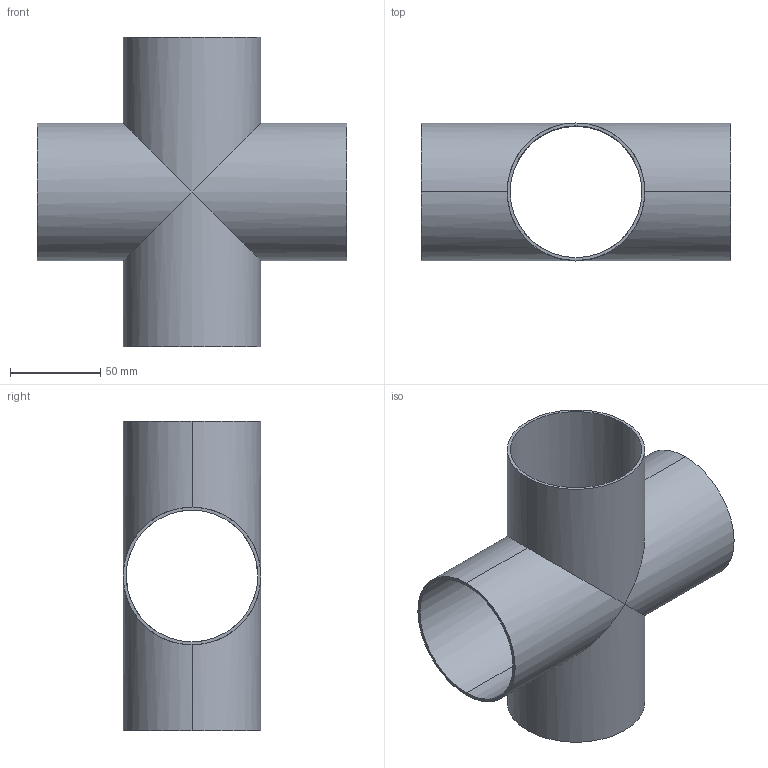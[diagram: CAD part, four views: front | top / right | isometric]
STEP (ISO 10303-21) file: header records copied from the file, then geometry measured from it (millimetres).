
FILE_DESCRIPTION (( 'STEP AP214' ), '1' );
FILE_NAME ('TE9WWWW6L3.0-...STEP', '2016-05-22T04:57:22', ( 'eran' ), ( '' ), 'SwSTEP 2.0', 'SolidWorks 2016', '' );
FILE_SCHEMA (( 'AUTOMOTIVE_DESIGN' ));
Length unit declared in the file: millimetre
Products named in the file (1): TE9WWWW6L3.0-..
Bounding box: 171.45 x 76.2 x 171.45 mm (x, y, z)
Volume: 95880.5 mm3; surface area: 117680.6 mm2
Topology: 1 solids, 1 shells, 20 faces, 48 edges, 28 vertices
Faces by surface type: cylinder 16, plane 4
Entity records: 618 total; most frequent: CARTESIAN_POINT 145, ORIENTED_EDGE 96, DIRECTION 90, EDGE_CURVE 48, AXIS2_PLACEMENT_3D 37, VERTEX_POINT 28, EDGE_LOOP 24, ADVANCED_FACE 20
